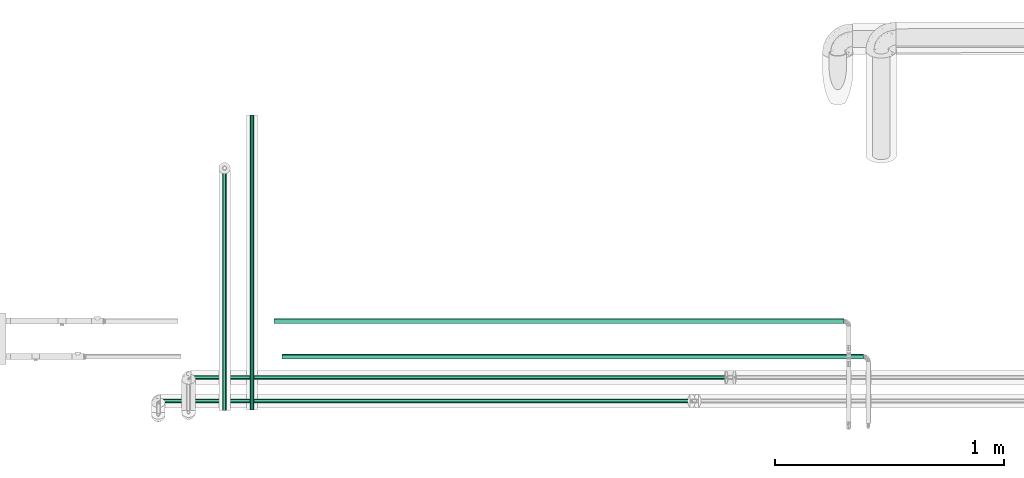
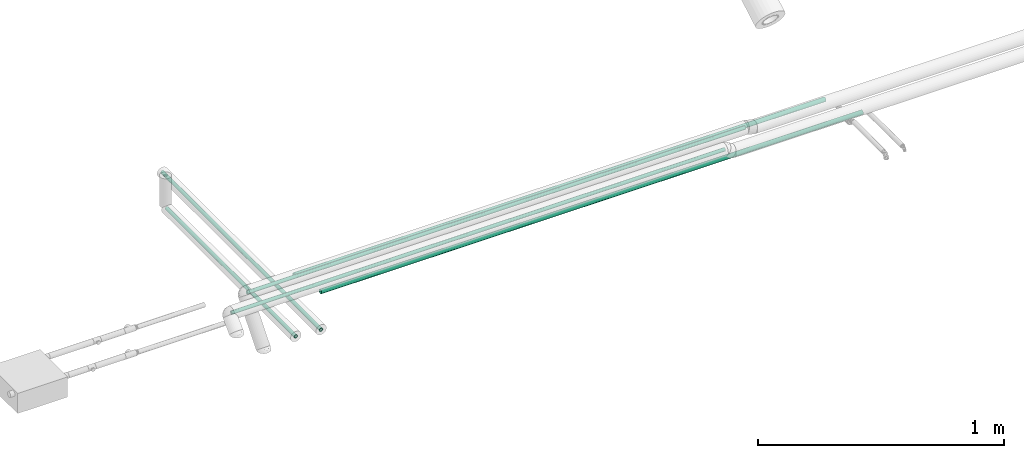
# One storey, part 44 of 156: 6 flow segments.
"""IFC2X3 building model written with IfcOpenShell, lengths in millimetres."""

from ifc_helpers import new_model, entity, si_unit, converted_unit, derived_unit, direction, frame, origin_with_axes, origin_2d_with_axis, place, context, subcontext, project, spatial, hollow_circle, extrude, source, transform, mapped, type_object, element, save


model = new_model("IFC2X3")

# Units and contexts
model_context = context("Model", 3, precision=0.01, world=frame((0.0, 4.29681676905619e-09, 0.0)), true_north=direction((4.01073788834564e-13, 1.0)))
plan_context = context("Plan", 3, precision=0.01, world=frame((0.0, 4.29681676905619e-09, 0.0)), true_north=direction((4.01073788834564e-13, 1.0)))
body_context = subcontext(model_context, "Body", "Model", "MODEL_VIEW")
ifc_project = project(units=[converted_unit("PLANEANGLEUNIT", "DEGREE", entity("IfcPositiveLengthMeasure", 0.0174532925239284), si_unit("PLANEANGLEUNIT", "RADIAN"), dimensions=[0, 0, 0, 0, 0, 0, 0]), si_unit("AREAUNIT", "SQUARE_METRE"), si_unit("LENGTHUNIT", "METRE", prefix="MILLI"), si_unit("MASSUNIT", "GRAM", prefix="KILO"), si_unit("POWERUNIT", "WATT"), si_unit("PRESSUREUNIT", "PASCAL", prefix="KILO"), si_unit("FORCEUNIT", "NEWTON", prefix="KILO"), si_unit("ELECTRICVOLTAGEUNIT", "VOLT"), si_unit("ELECTRICCURRENTUNIT", "AMPERE"), si_unit("THERMODYNAMICTEMPERATUREUNIT", "DEGREE_CELSIUS"), si_unit("TIMEUNIT", "SECOND"), si_unit("VOLUMEUNIT", "CUBIC_METRE"), derived_unit("LINEARVELOCITYUNIT", [(si_unit("LENGTHUNIT", "METRE"), 1), (si_unit("TIMEUNIT", "SECOND"), -1)]), derived_unit("VOLUMETRICFLOWRATEUNIT", [(si_unit("VOLUMEUNIT", "CUBIC_METRE"), 1), (si_unit("TIMEUNIT", "SECOND"), -1)]), derived_unit("THERMALTRANSMITTANCEUNIT", [(si_unit("POWERUNIT", "WATT"), 1), (si_unit("THERMODYNAMICTEMPERATUREUNIT", "KELVIN"), -1), (si_unit("AREAUNIT", "SQUARE_METRE"), -1)]), derived_unit("SOUNDPRESSUREUNIT", [(si_unit("PRESSUREUNIT", "PASCAL"), 1)])], contexts=[model_context, plan_context])

# Site, building, storey
site_placement = place(None, frame((0.0, -4.29681676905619e-09, 0.0), z_axis=(0.0, 0.0, 1.0), x_axis=(1.0, 0.0, 0.0)))
site = spatial("IfcSite", under=ifc_project, at=site_placement, CompositionType="ELEMENT")
building_placement = place(site_placement, frame((0.0, 4.29681676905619e-09, 0.0), z_axis=(0.0, 0.0, 1.0), x_axis=(1.0, 0.0, 0.0)))
building = spatial("IfcBuilding", under=site, at=building_placement, Name="mc-building", CompositionType="ELEMENT")
storey_placement = place(building_placement, frame((0.0, 0.0, 205200.0), z_axis=(0.0, 0.0, 1.0), x_axis=(1.0, 0.0, 0.0)))
storey = spatial("IfcBuildingStorey", under=building, at=storey_placement, Name="Nivå D + 1,2 m", CompositionType="ELEMENT", Elevation=205200.0)

# Flow segments
pipe_segment_type = type_object("IfcPipeSegmentType", Name="Stålrør normaltykke", PredefinedType="RIGIDSEGMENT")
shared_shape_1 = source(origin_with_axes(), body_context, "Body", "SweptSolid", [
    extrude(hollow_circle(Radius=8.6, WallThickness=2.0, at=origin_2d_with_axis()), frame((0.0, 0.0, 0.0), z_axis=(1.0, 0.0, 0.0), x_axis=(0.0, 1.0, 0.0)), (0.0, 0.0, 1.0), 1290.7),
])
flow_segment_1_placement = place(storey_placement, frame((323655.0, 460180.97171, 4035.79999999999), z_axis=(0.0, 0.0, 1.0), x_axis=(0.0, -1.0, 0.0)))
element("IfcFlowSegment", 1, at=flow_segment_1_placement, inside=storey, type_object=pipe_segment_type, Name="Stålrør normaltykke", context=body_context, shape_type="MappedRepresentation", body=[
    mapped(shared_shape_1, transform((0.0, 0.0, 0.0), scale=1.0)),
])
shared_shape_2 = source(origin_with_axes(), body_context, "Body", "SweptSolid", [
    extrude(hollow_circle(Radius=8.6, WallThickness=2.0, at=origin_2d_with_axis()), frame((0.0, 0.0, 0.0), z_axis=(1.0, 0.0, 0.0), x_axis=(0.0, 1.0, 0.0)), (0.0, 0.0, 1.0), 1049.8),
])
flow_segment_2_placement = place(storey_placement, frame((323535.0, 459937.49509, 4045.79999999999), z_axis=(0.0, 0.0, 1.0), x_axis=(0.0, -1.0, 0.0)))
element("IfcFlowSegment", 2, at=flow_segment_2_placement, inside=storey, type_object=pipe_segment_type, Name="Stålrør normaltykke", context=body_context, shape_type="MappedRepresentation", body=[
    mapped(shared_shape_2, transform((0.0, 0.0, 0.0), scale=1.0)),
])
shared_shape_3 = source(origin_with_axes(), body_context, "Body", "SweptSolid", [
    extrude(hollow_circle(Radius=10.7, WallThickness=2.0, at=origin_2d_with_axis()), frame((0.0, 0.0, 0.0), z_axis=(1.0, 0.0, 0.0), x_axis=(0.0, 1.0, 0.0)), (0.0, 0.0, 1.0), 2544.2),
])
flow_segment_3_placement = place(storey_placement, frame((326329.70559, 459123.07852, 4038.0), z_axis=(0.0, 0.0, 1.0), x_axis=(-1.0, 0.0, 0.0)))
element("IfcFlowSegment", 3, at=flow_segment_3_placement, inside=storey, type_object=pipe_segment_type, Name="Stålrør normaltykke", context=body_context, shape_type="MappedRepresentation", body=[
    mapped(shared_shape_3, transform((0.0, 0.0, 0.0), scale=1.0)),
])
shared_shape_4 = source(origin_with_axes(), body_context, "Body", "SweptSolid", [
    extrude(hollow_circle(Radius=10.7, WallThickness=2.0, at=origin_2d_with_axis()), frame((0.0, 0.0, 0.0), z_axis=(1.0, 0.0, 0.0), x_axis=(0.0, 1.0, 0.0)), (0.0, 0.0, 1.0), 2493.0),
])
flow_segment_4_placement = place(storey_placement, frame((326244.05854, 459278.07852, 4038.0), z_axis=(0.0, 0.0, 1.0), x_axis=(-1.0, 0.0, 0.0)))
element("IfcFlowSegment", 4, at=flow_segment_4_placement, inside=storey, type_object=pipe_segment_type, Name="Stålrør normaltykke", context=body_context, shape_type="MappedRepresentation", body=[
    mapped(shared_shape_4, transform((0.0, 0.0, 0.0), scale=1.0)),
])
shared_shape_5 = source(origin_with_axes(), body_context, "Body", "SweptSolid", [
    extrude(hollow_circle(Radius=8.6, WallThickness=2.0, at=origin_2d_with_axis()), frame((0.0, 0.0, 0.0), z_axis=(1.0, 0.0, 0.0), x_axis=(0.0, 1.0, 0.0)), (0.0, 0.0, 1.0), 2317.0),
])
flow_segment_5_placement = place(storey_placement, frame((323255.0, 458928.61963, 4236.68835000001), z_axis=(0.0, 0.0, 1.0), x_axis=(1.0, 0.0, 0.0)))
element("IfcFlowSegment", 5, at=flow_segment_5_placement, inside=storey, type_object=pipe_segment_type, Name="Stålrør normaltykke", context=body_context, shape_type="MappedRepresentation", body=[
    mapped(shared_shape_5, transform((0.0, 0.0, 0.0), scale=1.0)),
])
shared_shape_6 = source(origin_with_axes(), body_context, "Body", "SweptSolid", [
    extrude(hollow_circle(Radius=8.6, WallThickness=2.0, at=origin_2d_with_axis()), frame((0.0, 0.0, 0.0), z_axis=(1.0, 0.0, 0.0), x_axis=(0.0, 1.0, 0.0)), (0.0, 0.0, 1.0), 2338.8),
])
flow_segment_6_placement = place(storey_placement, frame((323387.5, 459031.28638, 4228.32044000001), z_axis=(0.0, 0.0, 1.0), x_axis=(1.0, 0.0, 0.0)))
element("IfcFlowSegment", 6, at=flow_segment_6_placement, inside=storey, type_object=pipe_segment_type, Name="Stålrør normaltykke", context=body_context, shape_type="MappedRepresentation", body=[
    mapped(shared_shape_6, transform((0.0, 0.0, 0.0), scale=1.0)),
])

save(model, "model.ifc")
